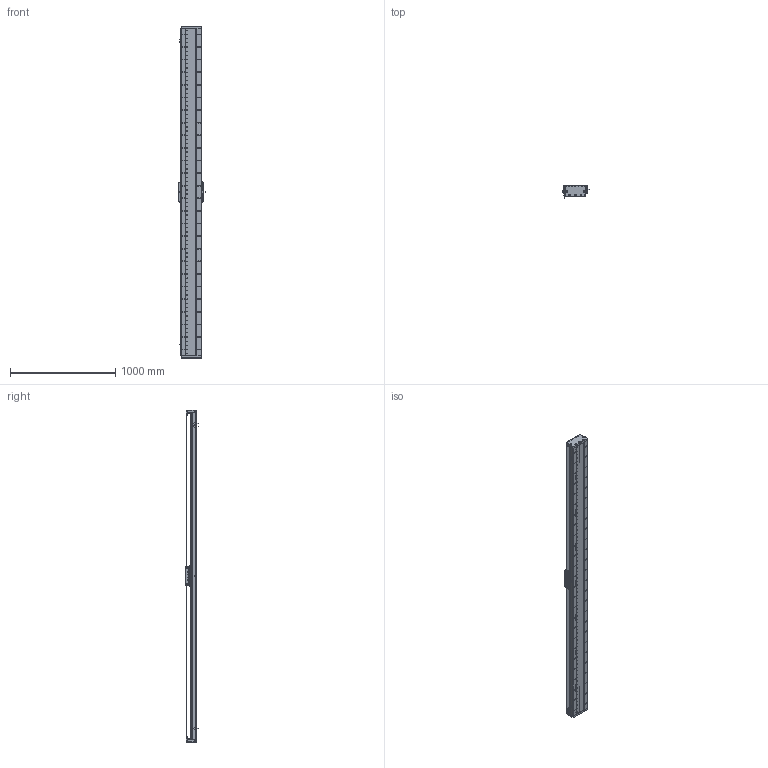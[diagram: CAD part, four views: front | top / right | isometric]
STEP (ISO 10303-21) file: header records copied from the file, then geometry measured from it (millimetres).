
FILE_DESCRIPTION (( 'STEP AP203' ), '1' );
FILE_NAME ('DA-C195-C2-T2880-C010-0.2 眻盄萇儂.STEP', '2025-08-15T01:15:35', ( '' ), ( '' ), 'SwSTEP 2.0', 'SolidWorks 2019', '' );
FILE_SCHEMA (( 'CONFIG_CONTROL_DESIGN' ));
Length unit declared in the file: millimetre
Products named in the file (15): DA195詩湍菜輸; LMT黍杅芛; IU-CU195-L-00 菁釱(L3120); DA-C195-GD-DB-H-00 傷啣; DA165-GYP-00 光电感应片(默认); 葩璃 DA95-GT-T-00; DA-C195-C2-T2880-C010-0.2 眻盄萇儂; MS200 棠掑喜S315-T1740; DA195詩湍裔啣; IU-CU195-L 菁釱絳寢; DA95-HXJ-00 遣喳砎蝶; DA195詩湍郪璃; CU195-C2賑輸-俋楷; DA195詩湍嶺輸; PM-T45ㄗ侂狟ㄘ
Assembly tree (29 placements, depth 3):
  DA-C195-C2-T2880-C010-0.2 眻盄萇儂
    DA195詩湍郪璃
      DA195詩湍菜輸  x2
      DA195詩湍裔啣
      DA195詩湍嶺輸  x2
      DA95-HXJ-00 遣喳砎蝶  x8
      DA-C195-GD-DB-H-00 傷啣  x2
    IU-CU195-L 菁釱絳寢
      IU-CU195-L-00 菁釱(L3120)
      葩璃 DA95-GT-T-00  x4
    LMT黍杅芛
    MS200 棠掑喜S315-T1740
    PM-T45ㄗ侂狟ㄘ  x3
    DA165-GYP-00 光电感应片(默认)
    CU195-C2賑輸-俋楷
Bounding box: 248 x 115.45 x 3160 mm (x, y, z)
Volume: 17769033.4 mm3; surface area: 5289939.5 mm2
Topology: 66 solids, 130 shells, 4602 faces, 13075 edges, 8263 vertices
Faces by surface type: cylinder 2575, plane 1409, cone 530, torus 52, sphere 36
Entity records: 151605 total; most frequent: CARTESIAN_POINT 42482, ORIENTED_EDGE 23034, DIRECTION 21832, EDGE_CURVE 11517, AXIS2_PLACEMENT_3D 8217, VERTEX_POINT 7465, VECTOR 5398, LINE 5398
